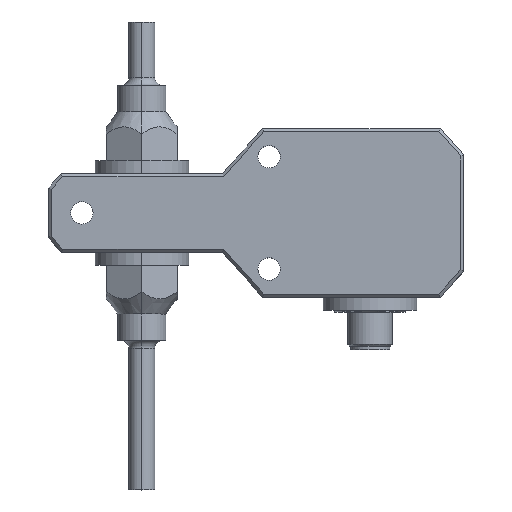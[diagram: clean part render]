
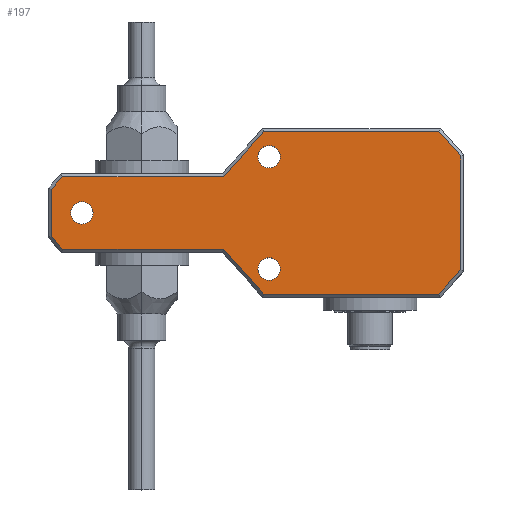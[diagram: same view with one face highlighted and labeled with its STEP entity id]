
A CAD part, top view. The second image highlights one B-rep face of the part: STEP entity #197.
In plain terms, the highlighted planar face has unit normal (0, 0, 1).
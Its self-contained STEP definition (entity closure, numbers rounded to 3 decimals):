
#197 = ADVANCED_FACE ( 'NONE', ( #6744, #6722, #6740, #6737 ), #6237, .T. ) ;
#236 = CARTESIAN_POINT ( 'NONE',  ( 1.607, 21.7, 13.6 ) ) ;
#299 = CARTESIAN_POINT ( 'NONE',  ( 0., -15., 13.6 ) ) ;
#306 = CARTESIAN_POINT ( 'NONE',  ( 6., -15., 13.6 ) ) ;
#350 = CARTESIAN_POINT ( 'NONE',  ( -47., 3., 13.6 ) ) ;
#365 = CARTESIAN_POINT ( 'NONE',  ( -47., -3., 13.6 ) ) ;
#370 = CARTESIAN_POINT ( 'NONE',  ( 6., 15., 13.6 ) ) ;
#408 = CARTESIAN_POINT ( 'NONE',  ( 0., 15., 13.6 ) ) ;
#574 = CARTESIAN_POINT ( 'NONE',  ( 48.372, -21.7, 13.6 ) ) ;
#579 = CARTESIAN_POINT ( 'NONE',  ( 1.607, -21.7, 13.6 ) ) ;
#580 = CARTESIAN_POINT ( 'NONE',  ( 54.2, -15.194, 13.6 ) ) ;
#584 = CARTESIAN_POINT ( 'NONE',  ( 54.2, 15.194, 13.6 ) ) ;
#586 = CARTESIAN_POINT ( 'NONE',  ( 48.372, 21.7, 13.6 ) ) ;
#588 = CARTESIAN_POINT ( 'NONE',  ( 1.607, 21.7, 13.6 ) ) ;
#590 = CARTESIAN_POINT ( 'NONE',  ( -9.143, 9.7, 13.6 ) ) ;
#592 = CARTESIAN_POINT ( 'NONE',  ( -52.143, 9.7, 13.6 ) ) ;
#594 = CARTESIAN_POINT ( 'NONE',  ( -55.2, 6.287, 13.6 ) ) ;
#596 = CARTESIAN_POINT ( 'NONE',  ( -55.2, -6.287, 13.6 ) ) ;
#598 = CARTESIAN_POINT ( 'NONE',  ( -52.143, -9.7, 13.6 ) ) ;
#600 = CARTESIAN_POINT ( 'NONE',  ( -9.143, -9.7, 13.6 ) ) ;
#738 = CARTESIAN_POINT ( 'NONE',  ( -9.143, -9.7, 13.6 ) ) ;
#753 = DIRECTION ( 'NONE',  ( 0.667, -0.745, 0. ) ) ;
#771 = CARTESIAN_POINT ( 'NONE',  ( 3.301, -9.7, 13.6 ) ) ;
#783 = DIRECTION ( 'NONE',  ( 1., 0., 0. ) ) ;
#816 = CARTESIAN_POINT ( 'NONE',  ( -47., 0., 13.6 ) ) ;
#817 = DIRECTION ( 'NONE',  ( 0., 0., -1. ) ) ;
#818 = DIRECTION ( 'NONE',  ( 0., 1., 0. ) ) ;
#849 = AXIS2_PLACEMENT_3D ( 'NONE', #6497, #6498, #6499 ) ;
#852 = AXIS2_PLACEMENT_3D ( 'NONE', #6508, #6509, #6510 ) ;
#858 = AXIS2_PLACEMENT_3D ( 'NONE', #6534, #6535, #6536 ) ;
#917 = AXIS2_PLACEMENT_3D ( 'NONE', #5305, #5304, #5302 ) ;
#936 = AXIS2_PLACEMENT_3D ( 'NONE', #1711, #1730, #1732 ) ;
#954 = AXIS2_PLACEMENT_3D ( 'NONE', #816, #817, #818 ) ;
#1084 = EDGE_LOOP ( 'NONE', ( #4176, #4175 ) ) ;
#1155 = EDGE_LOOP ( 'NONE', ( #4174, #4173 ) ) ;
#1238 = EDGE_LOOP ( 'NONE', ( #4172, #4171 ) ) ;
#1709 = DIRECTION ( 'NONE',  ( -0.667, -0.745, 0. ) ) ;
#1711 = CARTESIAN_POINT ( 'NONE',  ( 3., 15., 13.6 ) ) ;
#1727 = DIRECTION ( 'NONE',  ( -1., 0., 0. ) ) ;
#1730 = DIRECTION ( 'NONE',  ( 0., 0., -1. ) ) ;
#1732 = DIRECTION ( 'NONE',  ( -1., 0., 0. ) ) ;
#1740 = CARTESIAN_POINT ( 'NONE',  ( 3.301, 9.7, 13.6 ) ) ;
#1746 = DIRECTION ( 'NONE',  ( -0.667, 0.745, 0. ) ) ;
#1747 = CARTESIAN_POINT ( 'NONE',  ( 54.2, 15.194, 13.6 ) ) ;
#1779 = EDGE_CURVE ( 'NONE', #3668, #3706, #5123, .T. ) ;
#1784 = EDGE_CURVE ( 'NONE', #3663, #3648, #5101, .T. ) ;
#1793 = EDGE_CURVE ( 'NONE', #3604, #3594, #5162, .T. ) ;
#1904 = CIRCLE ( 'NONE', #936, 3. ) ;
#1906 = LINE ( 'NONE', #3206, #1912 ) ;
#1912 = VECTOR ( 'NONE', #3203, 1000. ) ;
#1934 = LINE ( 'NONE', #3214, #2084 ) ;
#2009 = VECTOR ( 'NONE', #1727, 1000. ) ;
#2014 = LINE ( 'NONE', #236, #2035 ) ;
#2035 = VECTOR ( 'NONE', #1709, 1000. ) ;
#2038 = VECTOR ( 'NONE', #3261, 1000. ) ;
#2041 = VECTOR ( 'NONE', #3191, 1000. ) ;
#2044 = LINE ( 'NONE', #3264, #2041 ) ;
#2045 = LINE ( 'NONE', #3263, #2038 ) ;
#2056 = VECTOR ( 'NONE', #1746, 1000. ) ;
#2057 = LINE ( 'NONE', #1747, #2056 ) ;
#2065 = LINE ( 'NONE', #3211, #2072 ) ;
#2067 = LINE ( 'NONE', #1740, #2009 ) ;
#2072 = VECTOR ( 'NONE', #3215, 1000. ) ;
#2084 = VECTOR ( 'NONE', #3208, 1000. ) ;
#2109 = VECTOR ( 'NONE', #753, 1000. ) ;
#2115 = LINE ( 'NONE', #738, #2109 ) ;
#2121 = LINE ( 'NONE', #771, #2123 ) ;
#2123 = VECTOR ( 'NONE', #783, 1000. ) ;
#2169 = CIRCLE ( 'NONE', #954, 3. ) ;
#2179 = EDGE_CURVE ( 'NONE', #3872, #3878, #5069, .T. ) ;
#2182 = EDGE_CURVE ( 'NONE', #3594, #3604, #5042, .T. ) ;
#2187 = EDGE_CURVE ( 'NONE', #3877, #3872, #5041, .T. ) ;
#2199 = EDGE_CURVE ( 'NONE', #3890, #3892, #2045, .T. ) ;
#2212 = EDGE_CURVE ( 'NONE', #3884, #3886, #1934, .T. ) ;
#2232 = EDGE_CURVE ( 'NONE', #3892, #3894, #2044, .T. ) ;
#2239 = EDGE_CURVE ( 'NONE', #3894, #3896, #2065, .T. ) ;
#2241 = EDGE_CURVE ( 'NONE', #3878, #3882, #1906, .T. ) ;
#2242 = EDGE_CURVE ( 'NONE', #3882, #3884, #2057, .T. ) ;
#2253 = EDGE_CURVE ( 'NONE', #3706, #3668, #1904, .T. ) ;
#2255 = EDGE_CURVE ( 'NONE', #3888, #3890, #2067, .T. ) ;
#2262 = EDGE_CURVE ( 'NONE', #3886, #3888, #2014, .T. ) ;
#3191 = DIRECTION ( 'NONE',  ( 0., -1., 0. ) ) ;
#3203 = DIRECTION ( 'NONE',  ( 0., 1., 0. ) ) ;
#3206 = CARTESIAN_POINT ( 'NONE',  ( 54.2, 0., 13.6 ) ) ;
#3208 = DIRECTION ( 'NONE',  ( -1., 0., 0. ) ) ;
#3211 = CARTESIAN_POINT ( 'NONE',  ( -55.2, -6.287, 13.6 ) ) ;
#3214 = CARTESIAN_POINT ( 'NONE',  ( 3.301, 21.7, 13.6 ) ) ;
#3215 = DIRECTION ( 'NONE',  ( 0.667, -0.745, 0. ) ) ;
#3261 = DIRECTION ( 'NONE',  ( -0.667, -0.745, 0. ) ) ;
#3263 = CARTESIAN_POINT ( 'NONE',  ( -52.143, 9.7, 13.6 ) ) ;
#3264 = CARTESIAN_POINT ( 'NONE',  ( -55.2, 0., 13.6 ) ) ;
#3411 = AXIS2_PLACEMENT_3D ( 'NONE', #6236, #6228, #6238 ) ;
#3594 = VERTEX_POINT ( 'NONE', #299 ) ;
#3604 = VERTEX_POINT ( 'NONE', #306 ) ;
#3648 = VERTEX_POINT ( 'NONE', #350 ) ;
#3663 = VERTEX_POINT ( 'NONE', #365 ) ;
#3668 = VERTEX_POINT ( 'NONE', #370 ) ;
#3706 = VERTEX_POINT ( 'NONE', #408 ) ;
#3872 = VERTEX_POINT ( 'NONE', #574 ) ;
#3877 = VERTEX_POINT ( 'NONE', #579 ) ;
#3878 = VERTEX_POINT ( 'NONE', #580 ) ;
#3882 = VERTEX_POINT ( 'NONE', #584 ) ;
#3884 = VERTEX_POINT ( 'NONE', #586 ) ;
#3886 = VERTEX_POINT ( 'NONE', #588 ) ;
#3888 = VERTEX_POINT ( 'NONE', #590 ) ;
#3890 = VERTEX_POINT ( 'NONE', #592 ) ;
#3892 = VERTEX_POINT ( 'NONE', #594 ) ;
#3894 = VERTEX_POINT ( 'NONE', #596 ) ;
#3896 = VERTEX_POINT ( 'NONE', #598 ) ;
#3898 = VERTEX_POINT ( 'NONE', #600 ) ;
#3935 = EDGE_LOOP ( 'NONE', ( #4170, #4169, #4168, #4167, #4166, #4165, #4164, #4163, #4162, #4161, #4160, #4159 ) ) ;
#4159 = ORIENTED_EDGE ( 'NONE', *, *, #2239, .T. ) ;
#4160 = ORIENTED_EDGE ( 'NONE', *, *, #2232, .T. ) ;
#4161 = ORIENTED_EDGE ( 'NONE', *, *, #2199, .T. ) ;
#4162 = ORIENTED_EDGE ( 'NONE', *, *, #2255, .T. ) ;
#4163 = ORIENTED_EDGE ( 'NONE', *, *, #2262, .T. ) ;
#4164 = ORIENTED_EDGE ( 'NONE', *, *, #2212, .T. ) ;
#4165 = ORIENTED_EDGE ( 'NONE', *, *, #2242, .T. ) ;
#4166 = ORIENTED_EDGE ( 'NONE', *, *, #2241, .T. ) ;
#4167 = ORIENTED_EDGE ( 'NONE', *, *, #2179, .T. ) ;
#4168 = ORIENTED_EDGE ( 'NONE', *, *, #2187, .T. ) ;
#4169 = ORIENTED_EDGE ( 'NONE', *, *, #4382, .T. ) ;
#4170 = ORIENTED_EDGE ( 'NONE', *, *, #4397, .T. ) ;
#4171 = ORIENTED_EDGE ( 'NONE', *, *, #1784, .T. ) ;
#4172 = ORIENTED_EDGE ( 'NONE', *, *, #4413, .T. ) ;
#4173 = ORIENTED_EDGE ( 'NONE', *, *, #1793, .T. ) ;
#4174 = ORIENTED_EDGE ( 'NONE', *, *, #2182, .T. ) ;
#4175 = ORIENTED_EDGE ( 'NONE', *, *, #1779, .T. ) ;
#4176 = ORIENTED_EDGE ( 'NONE', *, *, #2253, .T. ) ;
#4382 = EDGE_CURVE ( 'NONE', #3898, #3877, #2115, .T. ) ;
#4397 = EDGE_CURVE ( 'NONE', #3896, #3898, #2121, .T. ) ;
#4413 = EDGE_CURVE ( 'NONE', #3648, #3663, #2169, .T. ) ;
#5037 = VECTOR ( 'NONE', #5292, 1000. ) ;
#5041 = LINE ( 'NONE', #5250, #5037 ) ;
#5042 = CIRCLE ( 'NONE', #917, 3. ) ;
#5048 = VECTOR ( 'NONE', #5287, 1000. ) ;
#5069 = LINE ( 'NONE', #5265, #5048 ) ;
#5101 = CIRCLE ( 'NONE', #852, 3. ) ;
#5123 = CIRCLE ( 'NONE', #849, 3. ) ;
#5162 = CIRCLE ( 'NONE', #858, 3. ) ;
#5250 = CARTESIAN_POINT ( 'NONE',  ( 3.301, -21.7, 13.6 ) ) ;
#5265 = CARTESIAN_POINT ( 'NONE',  ( 48.372, -21.7, 13.6 ) ) ;
#5287 = DIRECTION ( 'NONE',  ( 0.667, 0.745, 0. ) ) ;
#5292 = DIRECTION ( 'NONE',  ( 1., 0., 0. ) ) ;
#5302 = DIRECTION ( 'NONE',  ( -1., 0., 0. ) ) ;
#5304 = DIRECTION ( 'NONE',  ( 0., 0., -1. ) ) ;
#5305 = CARTESIAN_POINT ( 'NONE',  ( 3., -15., 13.6 ) ) ;
#6228 = DIRECTION ( 'NONE',  ( 0., 0., 1. ) ) ;
#6236 = CARTESIAN_POINT ( 'NONE',  ( 3.301, 0., 13.6 ) ) ;
#6237 = PLANE ( 'NONE',  #3411 ) ;
#6238 = DIRECTION ( 'NONE',  ( 1., 0., 0. ) ) ;
#6497 = CARTESIAN_POINT ( 'NONE',  ( 3., 15., 13.6 ) ) ;
#6498 = DIRECTION ( 'NONE',  ( 0., 0., -1. ) ) ;
#6499 = DIRECTION ( 'NONE',  ( -1., 0., 0. ) ) ;
#6508 = CARTESIAN_POINT ( 'NONE',  ( -47., 0., 13.6 ) ) ;
#6509 = DIRECTION ( 'NONE',  ( 0., 0., -1. ) ) ;
#6510 = DIRECTION ( 'NONE',  ( 0., 1., 0. ) ) ;
#6534 = CARTESIAN_POINT ( 'NONE',  ( 3., -15., 13.6 ) ) ;
#6535 = DIRECTION ( 'NONE',  ( 0., 0., -1. ) ) ;
#6536 = DIRECTION ( 'NONE',  ( -1., 0., 0. ) ) ;
#6722 = FACE_BOUND ( 'NONE', #1155, .T. ) ;
#6737 = FACE_OUTER_BOUND ( 'NONE', #3935, .T. ) ;
#6740 = FACE_BOUND ( 'NONE', #1238, .T. ) ;
#6744 = FACE_BOUND ( 'NONE', #1084, .T. ) ;
